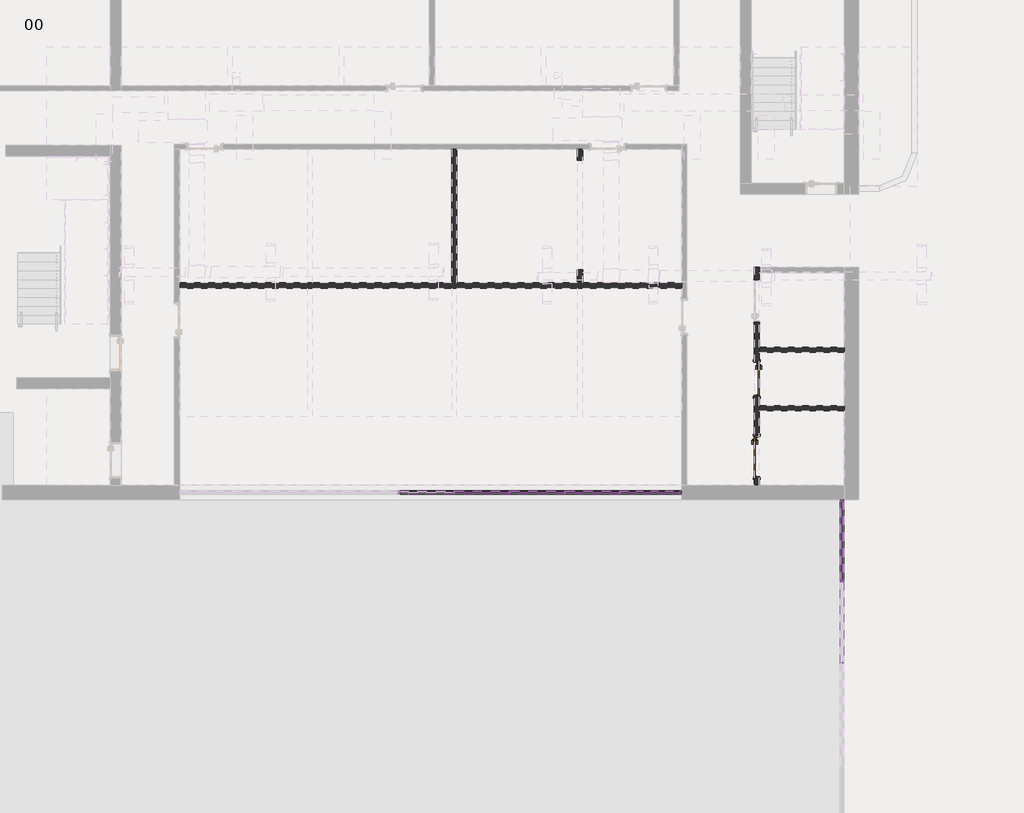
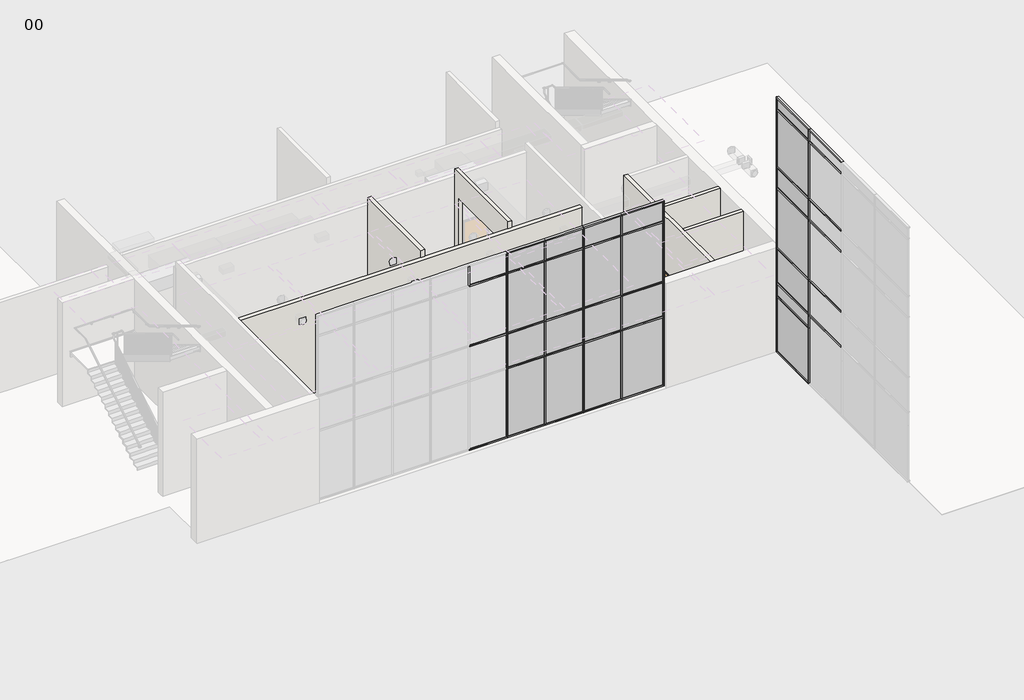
# One storey, part 3 of 12: 72 members, 23 plates, 6 walls, 2 doors.
"""IFC4 building model written with IfcOpenShell, lengths in millimetres."""

from ifc_helpers import new_model, si_unit, frame, origin, origin_with_axes, place, context, project, spatial, polyline, outline, extrude, faceted_brep, transform, mapped, element, save
from components import doors_intsgl_1_1010x2110mm_12a6edaf, doors_intsgl_1_1200x2110mm_07b1b6db, rectangular_mullion_curtainwallmullion_rectangular_generic_5675a122, rectangular_mullion_curtainwallmullion_rectangular_generic_397fb318, rectangular_mullion_curtainwallmullion_rectangular_generic_8ae0e668, rectangular_mullion_curtainwallmullion_rectangular_generic_15c16c91, rectangular_mullion_curtainwallmullion_rectangular_generic_08fbcc14, rectangular_mullion_curtainwallmullion_rectangular_generic_83e55909, rectangular_mullion_curtainwallmullion_rectangular_generic_1facc6e8, rectangular_mullion_curtainwallmullion_rectangular_generic_766165b3, rectangular_mullion_curtainwallmullion_rectangular_generic_b870b509, rectangular_mullion_curtainwallmullion_rectangular_generic_bb021e59, rectangular_mullion_curtainwallmullion_rectangular_generic_c971d07e, rectangular_mullion_curtainwallmullion_rectangular_generic_e6673756, rectangular_mullion_curtainwallmullion_rectangular_generic_63c9f2cf, rectangular_mullion_curtainwallmullion_rectangular_generic_d70bf6dd, rectangular_mullion_curtainwallmullion_rectangular_generic_654ac675, rectangular_mullion_curtainwallmullion_rectangular_generic_e7c47ca9, rectangular_mullion_curtainwallmullion_rectangular_generic_f3eef52e, rectangular_mullion_curtainwallmullion_rectangular_generic_c0600e94, rectangular_mullion_curtainwallmullion_rectangular_generic_3bdb59d8, rectangular_mullion_curtainwallmullion_rectangular_generic_0bcd7f07, rectangular_mullion_curtainwallmullion_rectangular_generic_c640f651, rectangular_mullion_curtainwallmullion_rectangular_generic_afb0b622, rectangular_mullion_curtainwallmullion_rectangular_generic_afae33c0, rectangular_mullion_curtainwallmullion_rectangular_generic_6b79dff2, rectangular_mullion_curtainwallmullion_rectangular_generic_b2d53351, rectangular_mullion_curtainwallmullion_rectangular_generic_d47b8a9d, system_panel_curtainpanel_glazed_2a823346, system_panel_curtainpanel_glazed_8c8521e7, system_panel_curtainpanel_glazed_c680861d, system_panel_curtainpanel_glazed_7c054268, system_panel_curtainpanel_glazed_8ab64ea0, system_panel_curtainpanel_glazed_beeb97b1, system_panel_curtainpanel_glazed_5b040634, system_panel_curtainpanel_glazed_68b8d244, system_panel_curtainpanel_solid_a1b8920c, system_panel_curtainpanel_solid_5b00d7df, system_panel_curtainpanel_solid_a154ba9f, system_panel_curtainpanel_solid_a51c248c, system_panel_curtainpanel_solid_c949ee80, system_panel_curtainpanel_solid_b8b1d7bc, system_panel_curtainpanel_solid_5b1e2b3f

model = new_model("IFC4")

# Units and contexts
model_context = context("Model", 3, world=origin())
ifc_project = project(units=[si_unit("LENGTHUNIT", "METRE", prefix="MILLI")], contexts=[model_context])

# Site, building, storey
site = spatial("IfcSite", under=ifc_project)
building = spatial("IfcBuilding", under=site)
storey = spatial("IfcBuildingStorey", under=building, Name="00", Elevation=0.0)

# Doors
placement = place(None, origin())
doors_intsgl_1_1010x2110mm_shape = doors_intsgl_1_1010x2110mm_12a6edaf(model_context)
element("IfcDoor", 1, ObjectType="Doors_IntSgl_1 : 1010x2110mm", at=placement, inside=storey, context=model_context, shape_type="MappedRepresentation", body=[
    mapped(doors_intsgl_1_1010x2110mm_shape, transform((443263.3206883, -393328.0026386, 0.0), x_axis=(0.0, -1.0, 0.0), y_axis=(1.0, 0.0, 0.0), z_axis=(0.0, 0.0, 1.0))),
])
doors_intsgl_1_1200x2110mm_shape = doors_intsgl_1_1200x2110mm_07b1b6db(model_context)
element("IfcDoor", 2, ObjectType="Doors_IntSgl_1 : 1200x2110mm", at=placement, inside=storey, context=model_context, shape_type="MappedRepresentation", body=[
    mapped(doors_intsgl_1_1200x2110mm_shape, transform((443263.3206883, -395528.0026386, 0.0), x_axis=(0.0, -1.0, 0.0), y_axis=(1.0, 0.0, 0.0), z_axis=(0.0, 0.0, 1.0))),
])

# Members
rectangular_mullion_curtainwallmullion_rectangular_generic_shape = rectangular_mullion_curtainwallmullion_rectangular_generic_5675a122(model_context)
element("IfcMember", 3, ObjectType="Rectangular Mullion : CurtainWallMullion_Rectangular_Generic", at=placement, inside=storey, context=model_context, shape_type="MappedRepresentation", body=[
    mapped(rectangular_mullion_curtainwallmullion_rectangular_generic_shape, transform((445668.3206883, -399032.2026388, 50.0), x_axis=(0.0, 1.0, 0.0), y_axis=(1.0, 0.0, 0.0), z_axis=(0.0, 0.0, -1.0))),
])
rectangular_mullion_curtainwallmullion_rectangular_generic_2_shape = rectangular_mullion_curtainwallmullion_rectangular_generic_397fb318(model_context)
element("IfcMember", 4, ObjectType="Rectangular Mullion : CurtainWallMullion_Rectangular_Generic", at=placement, inside=storey, context=model_context, shape_type="MappedRepresentation", body=[
    mapped(rectangular_mullion_curtainwallmullion_rectangular_generic_2_shape, transform((445668.3206883, -396730.0026386, 50.0), x_axis=(0.0, 1.0, 0.0), y_axis=(1.0, 0.0, 0.0), z_axis=(0.0, 0.0, -1.0))),
])
rectangular_mullion_curtainwallmullion_rectangular_generic_3_shape = rectangular_mullion_curtainwallmullion_rectangular_generic_8ae0e668(model_context)
element("IfcMember", 5, ObjectType="Rectangular Mullion : CurtainWallMullion_Rectangular_Generic", at=placement, inside=storey, context=model_context, shape_type="MappedRepresentation", body=[
    mapped(rectangular_mullion_curtainwallmullion_rectangular_generic_3_shape, transform((445668.3206883, -399032.2026388, 10486.7), x_axis=(0.0, 1.0, 0.0), y_axis=(1.0, 0.0, 0.0), z_axis=(0.0, 0.0, -1.0))),
])
rectangular_mullion_curtainwallmullion_rectangular_generic_4_shape = rectangular_mullion_curtainwallmullion_rectangular_generic_15c16c91(model_context)
element("IfcMember", 6, ObjectType="Rectangular Mullion : CurtainWallMullion_Rectangular_Generic", at=placement, inside=storey, context=model_context, shape_type="MappedRepresentation", body=[
    mapped(rectangular_mullion_curtainwallmullion_rectangular_generic_4_shape, transform((445668.3206883, -396730.0026386, 10486.7), x_axis=(0.0, 1.0, 0.0), y_axis=(1.0, 0.0, 0.0), z_axis=(0.0, 0.0, -1.0))),
])
rectangular_mullion_curtainwallmullion_rectangular_generic_5_shape = rectangular_mullion_curtainwallmullion_rectangular_generic_08fbcc14(model_context)
element("IfcMember", 7, ObjectType="Rectangular Mullion : CurtainWallMullion_Rectangular_Generic", at=placement, inside=storey, context=model_context, shape_type="MappedRepresentation", body=[
    mapped(rectangular_mullion_curtainwallmullion_rectangular_generic_5_shape, transform((445668.3206883, -399032.2026388, 8000.0), x_axis=(0.0, 1.0, 0.0), y_axis=(1.0, 0.0, 0.0), z_axis=(0.0, 0.0, -1.0))),
])
rectangular_mullion_curtainwallmullion_rectangular_generic_6_shape = rectangular_mullion_curtainwallmullion_rectangular_generic_83e55909(model_context)
element("IfcMember", 8, ObjectType="Rectangular Mullion : CurtainWallMullion_Rectangular_Generic", at=placement, inside=storey, context=model_context, shape_type="MappedRepresentation", body=[
    mapped(rectangular_mullion_curtainwallmullion_rectangular_generic_6_shape, transform((445668.3206883, -396730.0026386, 8000.0), x_axis=(0.0, 1.0, 0.0), y_axis=(1.0, 0.0, 0.0), z_axis=(0.0, 0.0, -1.0))),
])
rectangular_mullion_curtainwallmullion_rectangular_generic_7_shape = rectangular_mullion_curtainwallmullion_rectangular_generic_1facc6e8(model_context)
element("IfcMember", 9, ObjectType="Rectangular Mullion : CurtainWallMullion_Rectangular_Generic", at=placement, inside=storey, context=model_context, shape_type="MappedRepresentation", body=[
    mapped(rectangular_mullion_curtainwallmullion_rectangular_generic_7_shape, transform((445668.3206883, -396730.0026386, 11000.0), x_axis=(0.0, 0.0, 1.0), y_axis=(1.0, 0.0, 0.0), z_axis=(0.0, 1.0, 0.0))),
])
rectangular_mullion_curtainwallmullion_rectangular_generic_8_shape = rectangular_mullion_curtainwallmullion_rectangular_generic_766165b3(model_context)
element("IfcMember", 10, ObjectType="Rectangular Mullion : CurtainWallMullion_Rectangular_Generic", at=placement, inside=storey, context=model_context, shape_type="MappedRepresentation", body=[
    mapped(rectangular_mullion_curtainwallmullion_rectangular_generic_8_shape, transform((445668.3206883, -399032.2026388, 11000.0), x_axis=(0.0, 0.0, 1.0), y_axis=(1.0, 0.0, 0.0), z_axis=(0.0, 1.0, 0.0))),
])
rectangular_mullion_curtainwallmullion_rectangular_generic_9_shape = rectangular_mullion_curtainwallmullion_rectangular_generic_b870b509(model_context)
element("IfcMember", 11, ObjectType="Rectangular Mullion : CurtainWallMullion_Rectangular_Generic", at=placement, inside=storey, context=model_context, shape_type="MappedRepresentation", body=[
    mapped(rectangular_mullion_curtainwallmullion_rectangular_generic_9_shape, transform((445668.3206883, -399057.2026388, 4500.0), x_axis=(0.0, 0.0, 1.0), y_axis=(1.0, 0.0, 0.0), z_axis=(0.0, 1.0, 0.0))),
])
element("IfcMember", 12, ObjectType="Rectangular Mullion : CurtainWallMullion_Rectangular_Generic", at=placement, inside=storey, context=model_context, shape_type="MappedRepresentation", body=[
    mapped(rectangular_mullion_curtainwallmullion_rectangular_generic_9_shape, transform((445668.3206883, -399057.2026388, 7100.0), x_axis=(0.0, 0.0, 1.0), y_axis=(1.0, 0.0, 0.0), z_axis=(0.0, 1.0, 0.0))),
])
element("IfcMember", 13, ObjectType="Rectangular Mullion : CurtainWallMullion_Rectangular_Generic", at=placement, inside=storey, context=model_context, shape_type="MappedRepresentation", body=[
    mapped(rectangular_mullion_curtainwallmullion_rectangular_generic_9_shape, transform((445668.3206883, -399057.2026388, 10486.7), x_axis=(0.0, 0.0, 1.0), y_axis=(1.0, 0.0, 0.0), z_axis=(0.0, 1.0, 0.0))),
])
element("IfcMember", 14, ObjectType="Rectangular Mullion : CurtainWallMullion_Rectangular_Generic", at=placement, inside=storey, context=model_context, shape_type="MappedRepresentation", body=[
    mapped(rectangular_mullion_curtainwallmullion_rectangular_generic_9_shape, transform((445668.3206883, -399057.2026388, 3000.0), x_axis=(0.0, 0.0, 1.0), y_axis=(1.0, 0.0, 0.0), z_axis=(0.0, 1.0, 0.0))),
])
element("IfcMember", 15, ObjectType="Rectangular Mullion : CurtainWallMullion_Rectangular_Generic", at=placement, inside=storey, context=model_context, shape_type="MappedRepresentation", body=[
    mapped(rectangular_mullion_curtainwallmullion_rectangular_generic_9_shape, transform((445668.3206883, -399057.2026388, 8000.0), x_axis=(0.0, 0.0, 1.0), y_axis=(1.0, 0.0, 0.0), z_axis=(0.0, 1.0, 0.0))),
])
element("IfcMember", 16, ObjectType="Rectangular Mullion : CurtainWallMullion_Rectangular_Generic", at=placement, inside=storey, context=model_context, shape_type="MappedRepresentation", body=[
    mapped(rectangular_mullion_curtainwallmullion_rectangular_generic_7_shape, transform((445668.3206883, -399032.2026388, 0.0), x_axis=(0.0, 0.0, -1.0), y_axis=(1.0, 0.0, 0.0), z_axis=(0.0, -1.0, 0.0))),
])
rectangular_mullion_curtainwallmullion_rectangular_generic_10_shape = rectangular_mullion_curtainwallmullion_rectangular_generic_bb021e59(model_context)
element("IfcMember", 17, ObjectType="Rectangular Mullion : CurtainWallMullion_Rectangular_Generic", at=placement, inside=storey, context=model_context, shape_type="MappedRepresentation", body=[
    mapped(rectangular_mullion_curtainwallmullion_rectangular_generic_10_shape, transform((445668.3206883, -396780.0026386, 2425.0), x_axis=(0.0, 0.0, 1.0), y_axis=(1.0, 0.0, 0.0), z_axis=(0.0, 1.0, 0.0))),
])
element("IfcMember", 18, ObjectType="Rectangular Mullion : CurtainWallMullion_Rectangular_Generic", at=placement, inside=storey, context=model_context, shape_type="MappedRepresentation", body=[
    mapped(rectangular_mullion_curtainwallmullion_rectangular_generic_10_shape, transform((445668.3206883, -396780.0026386, 4500.0), x_axis=(0.0, 0.0, 1.0), y_axis=(1.0, 0.0, 0.0), z_axis=(0.0, 1.0, 0.0))),
])
element("IfcMember", 19, ObjectType="Rectangular Mullion : CurtainWallMullion_Rectangular_Generic", at=placement, inside=storey, context=model_context, shape_type="MappedRepresentation", body=[
    mapped(rectangular_mullion_curtainwallmullion_rectangular_generic_10_shape, transform((445668.3206883, -396780.0026386, 7100.0), x_axis=(0.0, 0.0, 1.0), y_axis=(1.0, 0.0, 0.0), z_axis=(0.0, 1.0, 0.0))),
])
element("IfcMember", 20, ObjectType="Rectangular Mullion : CurtainWallMullion_Rectangular_Generic", at=placement, inside=storey, context=model_context, shape_type="MappedRepresentation", body=[
    mapped(rectangular_mullion_curtainwallmullion_rectangular_generic_10_shape, transform((445668.3206883, -396780.0026386, 10486.7), x_axis=(0.0, 0.0, 1.0), y_axis=(1.0, 0.0, 0.0), z_axis=(0.0, 1.0, 0.0))),
])
element("IfcMember", 21, ObjectType="Rectangular Mullion : CurtainWallMullion_Rectangular_Generic", at=placement, inside=storey, context=model_context, shape_type="MappedRepresentation", body=[
    mapped(rectangular_mullion_curtainwallmullion_rectangular_generic_10_shape, transform((445668.3206883, -396780.0026386, 3000.0), x_axis=(0.0, 0.0, 1.0), y_axis=(1.0, 0.0, 0.0), z_axis=(0.0, 1.0, 0.0))),
])
element("IfcMember", 22, ObjectType="Rectangular Mullion : CurtainWallMullion_Rectangular_Generic", at=placement, inside=storey, context=model_context, shape_type="MappedRepresentation", body=[
    mapped(rectangular_mullion_curtainwallmullion_rectangular_generic_10_shape, transform((445668.3206883, -396780.0026386, 8000.0), x_axis=(0.0, 0.0, 1.0), y_axis=(1.0, 0.0, 0.0), z_axis=(0.0, 1.0, 0.0))),
])
rectangular_mullion_curtainwallmullion_rectangular_generic_11_shape = rectangular_mullion_curtainwallmullion_rectangular_generic_c971d07e(model_context)
element("IfcMember", 23, ObjectType="Rectangular Mullion : CurtainWallMullion_Rectangular_Generic", at=placement, inside=storey, context=model_context, shape_type="MappedRepresentation", body=[
    mapped(rectangular_mullion_curtainwallmullion_rectangular_generic_11_shape, transform((437850.0984659, -396529.0026386, 8000.0), x_axis=(0.0, 0.0, 1.0), y_axis=(0.0, 1.0, 0.0), z_axis=(-1.0, 0.0, 0.0))),
])
element("IfcMember", 24, ObjectType="Rectangular Mullion : CurtainWallMullion_Rectangular_Generic", at=placement, inside=storey, context=model_context, shape_type="MappedRepresentation", body=[
    mapped(rectangular_mullion_curtainwallmullion_rectangular_generic_11_shape, transform((436288.9873549, -396529.0026386, 8000.0), x_axis=(0.0, 0.0, 1.0), y_axis=(0.0, 1.0, 0.0), z_axis=(-1.0, 0.0, 0.0))),
])
element("IfcMember", 25, ObjectType="Rectangular Mullion : CurtainWallMullion_Rectangular_Generic", at=placement, inside=storey, context=model_context, shape_type="MappedRepresentation", body=[
    mapped(rectangular_mullion_curtainwallmullion_rectangular_generic_11_shape, transform((434727.8762438, -396529.0026386, 8000.0), x_axis=(0.0, 0.0, 1.0), y_axis=(0.0, 1.0, 0.0), z_axis=(-1.0, 0.0, 0.0))),
])
element("IfcMember", 26, ObjectType="Rectangular Mullion : CurtainWallMullion_Rectangular_Generic", at=placement, inside=storey, context=model_context, shape_type="MappedRepresentation", body=[
    mapped(rectangular_mullion_curtainwallmullion_rectangular_generic_11_shape, transform((439411.209577, -396529.0026386, 0.0), x_axis=(0.0, 0.0, -1.0), y_axis=(0.0, 1.0, 0.0), z_axis=(1.0, 0.0, 0.0))),
])
element("IfcMember", 27, ObjectType="Rectangular Mullion : CurtainWallMullion_Rectangular_Generic", at=placement, inside=storey, context=model_context, shape_type="MappedRepresentation", body=[
    mapped(rectangular_mullion_curtainwallmullion_rectangular_generic_11_shape, transform((437850.0984659, -396529.0026386, 0.0), x_axis=(0.0, 0.0, -1.0), y_axis=(0.0, 1.0, 0.0), z_axis=(1.0, 0.0, 0.0))),
])
element("IfcMember", 28, ObjectType="Rectangular Mullion : CurtainWallMullion_Rectangular_Generic", at=placement, inside=storey, context=model_context, shape_type="MappedRepresentation", body=[
    mapped(rectangular_mullion_curtainwallmullion_rectangular_generic_11_shape, transform((436288.9873549, -396529.0026386, 0.0), x_axis=(0.0, 0.0, -1.0), y_axis=(0.0, 1.0, 0.0), z_axis=(1.0, 0.0, 0.0))),
])
element("IfcMember", 29, ObjectType="Rectangular Mullion : CurtainWallMullion_Rectangular_Generic", at=placement, inside=storey, context=model_context, shape_type="MappedRepresentation", body=[
    mapped(rectangular_mullion_curtainwallmullion_rectangular_generic_11_shape, transform((434727.8762438, -396529.0026386, 0.0), x_axis=(0.0, 0.0, -1.0), y_axis=(0.0, 1.0, 0.0), z_axis=(1.0, 0.0, 0.0))),
])
rectangular_mullion_curtainwallmullion_rectangular_generic_12_shape = rectangular_mullion_curtainwallmullion_rectangular_generic_e6673756(model_context)
element("IfcMember", 30, ObjectType="Rectangular Mullion : CurtainWallMullion_Rectangular_Generic", at=placement, inside=storey, context=model_context, shape_type="MappedRepresentation", body=[
    mapped(rectangular_mullion_curtainwallmullion_rectangular_generic_12_shape, transform((437875.0984659, -396529.0026386, 3000.0), x_axis=(0.0, 0.0, 1.0), y_axis=(0.0, 1.0, 0.0), z_axis=(-1.0, 0.0, 0.0))),
])
element("IfcMember", 31, ObjectType="Rectangular Mullion : CurtainWallMullion_Rectangular_Generic", at=placement, inside=storey, context=model_context, shape_type="MappedRepresentation", body=[
    mapped(rectangular_mullion_curtainwallmullion_rectangular_generic_12_shape, transform((436313.9873549, -396529.0026386, 3000.0), x_axis=(0.0, 0.0, 1.0), y_axis=(0.0, 1.0, 0.0), z_axis=(-1.0, 0.0, 0.0))),
])
element("IfcMember", 32, ObjectType="Rectangular Mullion : CurtainWallMullion_Rectangular_Generic", at=placement, inside=storey, context=model_context, shape_type="MappedRepresentation", body=[
    mapped(rectangular_mullion_curtainwallmullion_rectangular_generic_12_shape, transform((434752.8762438, -396529.0026386, 3000.0), x_axis=(0.0, 0.0, 1.0), y_axis=(0.0, 1.0, 0.0), z_axis=(-1.0, 0.0, 0.0))),
])
element("IfcMember", 33, ObjectType="Rectangular Mullion : CurtainWallMullion_Rectangular_Generic", at=placement, inside=storey, context=model_context, shape_type="MappedRepresentation", body=[
    mapped(rectangular_mullion_curtainwallmullion_rectangular_generic_12_shape, transform((437875.0984659, -396529.0026386, 4500.0), x_axis=(0.0, 0.0, 1.0), y_axis=(0.0, 1.0, 0.0), z_axis=(-1.0, 0.0, 0.0))),
])
element("IfcMember", 34, ObjectType="Rectangular Mullion : CurtainWallMullion_Rectangular_Generic", at=placement, inside=storey, context=model_context, shape_type="MappedRepresentation", body=[
    mapped(rectangular_mullion_curtainwallmullion_rectangular_generic_12_shape, transform((436313.9873549, -396529.0026386, 4500.0), x_axis=(0.0, 0.0, 1.0), y_axis=(0.0, 1.0, 0.0), z_axis=(-1.0, 0.0, 0.0))),
])
element("IfcMember", 35, ObjectType="Rectangular Mullion : CurtainWallMullion_Rectangular_Generic", at=placement, inside=storey, context=model_context, shape_type="MappedRepresentation", body=[
    mapped(rectangular_mullion_curtainwallmullion_rectangular_generic_12_shape, transform((434752.8762438, -396529.0026386, 4500.0), x_axis=(0.0, 0.0, 1.0), y_axis=(0.0, 1.0, 0.0), z_axis=(-1.0, 0.0, 0.0))),
])
element("IfcMember", 36, ObjectType="Rectangular Mullion : CurtainWallMullion_Rectangular_Generic", at=placement, inside=storey, context=model_context, shape_type="MappedRepresentation", body=[
    mapped(rectangular_mullion_curtainwallmullion_rectangular_generic_12_shape, transform((433191.7651328, -396529.0026386, 4500.0), x_axis=(0.0, 0.0, 1.0), y_axis=(0.0, 1.0, 0.0), z_axis=(-1.0, 0.0, 0.0))),
])
element("IfcMember", 37, ObjectType="Rectangular Mullion : CurtainWallMullion_Rectangular_Generic", at=placement, inside=storey, context=model_context, shape_type="MappedRepresentation", body=[
    mapped(rectangular_mullion_curtainwallmullion_rectangular_generic_12_shape, transform((437875.0984659, -396529.0026386, 7100.0), x_axis=(0.0, 0.0, 1.0), y_axis=(0.0, 1.0, 0.0), z_axis=(-1.0, 0.0, 0.0))),
])
element("IfcMember", 38, ObjectType="Rectangular Mullion : CurtainWallMullion_Rectangular_Generic", at=placement, inside=storey, context=model_context, shape_type="MappedRepresentation", body=[
    mapped(rectangular_mullion_curtainwallmullion_rectangular_generic_12_shape, transform((436313.9873549, -396529.0026386, 7100.0), x_axis=(0.0, 0.0, 1.0), y_axis=(0.0, 1.0, 0.0), z_axis=(-1.0, 0.0, 0.0))),
])
element("IfcMember", 39, ObjectType="Rectangular Mullion : CurtainWallMullion_Rectangular_Generic", at=placement, inside=storey, context=model_context, shape_type="MappedRepresentation", body=[
    mapped(rectangular_mullion_curtainwallmullion_rectangular_generic_12_shape, transform((434752.8762438, -396529.0026386, 7100.0), x_axis=(0.0, 0.0, 1.0), y_axis=(0.0, 1.0, 0.0), z_axis=(-1.0, 0.0, 0.0))),
])
element("IfcMember", 40, ObjectType="Rectangular Mullion : CurtainWallMullion_Rectangular_Generic", at=placement, inside=storey, context=model_context, shape_type="MappedRepresentation", body=[
    mapped(rectangular_mullion_curtainwallmullion_rectangular_generic_12_shape, transform((433191.7651328, -396529.0026386, 7100.0), x_axis=(0.0, 0.0, 1.0), y_axis=(0.0, 1.0, 0.0), z_axis=(-1.0, 0.0, 0.0))),
])
rectangular_mullion_curtainwallmullion_rectangular_generic_13_shape = rectangular_mullion_curtainwallmullion_rectangular_generic_63c9f2cf(model_context)
element("IfcMember", 41, ObjectType="Rectangular Mullion : CurtainWallMullion_Rectangular_Generic", at=placement, inside=storey, context=model_context, shape_type="MappedRepresentation", body=[
    mapped(rectangular_mullion_curtainwallmullion_rectangular_generic_13_shape, transform((439411.209577, -396529.0026386, 7100.0), x_axis=(-1.0, 0.0, 0.0), y_axis=(0.0, 1.0, 0.0), z_axis=(0.0, 0.0, -1.0))),
])
element("IfcMember", 42, ObjectType="Rectangular Mullion : CurtainWallMullion_Rectangular_Generic", at=placement, inside=storey, context=model_context, shape_type="MappedRepresentation", body=[
    mapped(rectangular_mullion_curtainwallmullion_rectangular_generic_13_shape, transform((437850.0984659, -396529.0026386, 7100.0), x_axis=(-1.0, 0.0, 0.0), y_axis=(0.0, 1.0, 0.0), z_axis=(0.0, 0.0, -1.0))),
])
element("IfcMember", 43, ObjectType="Rectangular Mullion : CurtainWallMullion_Rectangular_Generic", at=placement, inside=storey, context=model_context, shape_type="MappedRepresentation", body=[
    mapped(rectangular_mullion_curtainwallmullion_rectangular_generic_13_shape, transform((436288.9873549, -396529.0026386, 7100.0), x_axis=(-1.0, 0.0, 0.0), y_axis=(0.0, 1.0, 0.0), z_axis=(0.0, 0.0, -1.0))),
])
element("IfcMember", 44, ObjectType="Rectangular Mullion : CurtainWallMullion_Rectangular_Generic", at=placement, inside=storey, context=model_context, shape_type="MappedRepresentation", body=[
    mapped(rectangular_mullion_curtainwallmullion_rectangular_generic_13_shape, transform((434727.8762438, -396529.0026386, 7100.0), x_axis=(-1.0, 0.0, 0.0), y_axis=(0.0, 1.0, 0.0), z_axis=(0.0, 0.0, -1.0))),
])
element("IfcMember", 45, ObjectType="Rectangular Mullion : CurtainWallMullion_Rectangular_Generic", at=placement, inside=storey, context=model_context, shape_type="MappedRepresentation", body=[
    mapped(rectangular_mullion_curtainwallmullion_rectangular_generic_13_shape, transform((433166.7651328, -396529.0026386, 7100.0), x_axis=(-1.0, 0.0, 0.0), y_axis=(0.0, 1.0, 0.0), z_axis=(0.0, 0.0, -1.0))),
])
rectangular_mullion_curtainwallmullion_rectangular_generic_14_shape = rectangular_mullion_curtainwallmullion_rectangular_generic_d70bf6dd(model_context)
element("IfcMember", 46, ObjectType="Rectangular Mullion : CurtainWallMullion_Rectangular_Generic", at=placement, inside=storey, context=model_context, shape_type="MappedRepresentation", body=[
    mapped(rectangular_mullion_curtainwallmullion_rectangular_generic_14_shape, transform((441142.3206883, -396529.0026386, 7950.0), x_axis=(1.0, 0.0, 0.0), y_axis=(0.0, 1.0, 0.0), z_axis=(0.0, 0.0, 1.0))),
])
rectangular_mullion_curtainwallmullion_rectangular_generic_15_shape = rectangular_mullion_curtainwallmullion_rectangular_generic_654ac675(model_context)
element("IfcMember", 47, ObjectType="Rectangular Mullion : CurtainWallMullion_Rectangular_Generic", at=placement, inside=storey, context=model_context, shape_type="MappedRepresentation", body=[
    mapped(rectangular_mullion_curtainwallmullion_rectangular_generic_15_shape, transform((445668.3206883, -399032.2026388, 4500.0), x_axis=(0.0, 1.0, 0.0), y_axis=(1.0, 0.0, 0.0), z_axis=(0.0, 0.0, -1.0))),
])
element("IfcMember", 48, ObjectType="Rectangular Mullion : CurtainWallMullion_Rectangular_Generic", at=placement, inside=storey, context=model_context, shape_type="MappedRepresentation", body=[
    mapped(rectangular_mullion_curtainwallmullion_rectangular_generic_15_shape, transform((439411.209577, -396529.0026386, 4500.0), x_axis=(-1.0, 0.0, 0.0), y_axis=(0.0, 1.0, 0.0), z_axis=(0.0, 0.0, -1.0))),
])
element("IfcMember", 49, ObjectType="Rectangular Mullion : CurtainWallMullion_Rectangular_Generic", at=placement, inside=storey, context=model_context, shape_type="MappedRepresentation", body=[
    mapped(rectangular_mullion_curtainwallmullion_rectangular_generic_15_shape, transform((437850.0984659, -396529.0026386, 4500.0), x_axis=(-1.0, 0.0, 0.0), y_axis=(0.0, 1.0, 0.0), z_axis=(0.0, 0.0, -1.0))),
])
element("IfcMember", 50, ObjectType="Rectangular Mullion : CurtainWallMullion_Rectangular_Generic", at=placement, inside=storey, context=model_context, shape_type="MappedRepresentation", body=[
    mapped(rectangular_mullion_curtainwallmullion_rectangular_generic_15_shape, transform((436288.9873549, -396529.0026386, 4500.0), x_axis=(-1.0, 0.0, 0.0), y_axis=(0.0, 1.0, 0.0), z_axis=(0.0, 0.0, -1.0))),
])
element("IfcMember", 51, ObjectType="Rectangular Mullion : CurtainWallMullion_Rectangular_Generic", at=placement, inside=storey, context=model_context, shape_type="MappedRepresentation", body=[
    mapped(rectangular_mullion_curtainwallmullion_rectangular_generic_15_shape, transform((434727.8762438, -396529.0026386, 4500.0), x_axis=(-1.0, 0.0, 0.0), y_axis=(0.0, 1.0, 0.0), z_axis=(0.0, 0.0, -1.0))),
])
rectangular_mullion_curtainwallmullion_rectangular_generic_16_shape = rectangular_mullion_curtainwallmullion_rectangular_generic_e7c47ca9(model_context)
element("IfcMember", 52, ObjectType="Rectangular Mullion : CurtainWallMullion_Rectangular_Generic", at=placement, inside=storey, context=model_context, shape_type="MappedRepresentation", body=[
    mapped(rectangular_mullion_curtainwallmullion_rectangular_generic_16_shape, transform((445668.3206883, -396730.0026386, 4500.0), x_axis=(0.0, 1.0, 0.0), y_axis=(1.0, 0.0, 0.0), z_axis=(0.0, 0.0, -1.0))),
])
element("IfcMember", 53, ObjectType="Rectangular Mullion : CurtainWallMullion_Rectangular_Generic", at=placement, inside=storey, context=model_context, shape_type="MappedRepresentation", body=[
    mapped(rectangular_mullion_curtainwallmullion_rectangular_generic_16_shape, transform((441142.3206883, -396529.0026386, 7100.0), x_axis=(1.0, 0.0, 0.0), y_axis=(0.0, 1.0, 0.0), z_axis=(0.0, 0.0, 1.0))),
])
rectangular_mullion_curtainwallmullion_rectangular_generic_17_shape = rectangular_mullion_curtainwallmullion_rectangular_generic_f3eef52e(model_context)
element("IfcMember", 54, ObjectType="Rectangular Mullion : CurtainWallMullion_Rectangular_Generic", at=placement, inside=storey, context=model_context, shape_type="MappedRepresentation", body=[
    mapped(rectangular_mullion_curtainwallmullion_rectangular_generic_17_shape, transform((439411.209577, -396529.0026386, 50.0), x_axis=(-1.0, 0.0, 0.0), y_axis=(0.0, 1.0, 0.0), z_axis=(0.0, 0.0, -1.0))),
])
element("IfcMember", 55, ObjectType="Rectangular Mullion : CurtainWallMullion_Rectangular_Generic", at=placement, inside=storey, context=model_context, shape_type="MappedRepresentation", body=[
    mapped(rectangular_mullion_curtainwallmullion_rectangular_generic_17_shape, transform((437850.0984659, -396529.0026386, 50.0), x_axis=(-1.0, 0.0, 0.0), y_axis=(0.0, 1.0, 0.0), z_axis=(0.0, 0.0, -1.0))),
])
element("IfcMember", 56, ObjectType="Rectangular Mullion : CurtainWallMullion_Rectangular_Generic", at=placement, inside=storey, context=model_context, shape_type="MappedRepresentation", body=[
    mapped(rectangular_mullion_curtainwallmullion_rectangular_generic_17_shape, transform((436288.9873549, -396529.0026386, 50.0), x_axis=(-1.0, 0.0, 0.0), y_axis=(0.0, 1.0, 0.0), z_axis=(0.0, 0.0, -1.0))),
])
element("IfcMember", 57, ObjectType="Rectangular Mullion : CurtainWallMullion_Rectangular_Generic", at=placement, inside=storey, context=model_context, shape_type="MappedRepresentation", body=[
    mapped(rectangular_mullion_curtainwallmullion_rectangular_generic_17_shape, transform((434727.8762438, -396529.0026386, 50.0), x_axis=(-1.0, 0.0, 0.0), y_axis=(0.0, 1.0, 0.0), z_axis=(0.0, 0.0, -1.0))),
])
rectangular_mullion_curtainwallmullion_rectangular_generic_18_shape = rectangular_mullion_curtainwallmullion_rectangular_generic_c0600e94(model_context)
element("IfcMember", 58, ObjectType="Rectangular Mullion : CurtainWallMullion_Rectangular_Generic", at=placement, inside=storey, context=model_context, shape_type="MappedRepresentation", body=[
    mapped(rectangular_mullion_curtainwallmullion_rectangular_generic_18_shape, transform((445668.3206883, -399032.2026388, 3000.0), x_axis=(0.0, 1.0, 0.0), y_axis=(1.0, 0.0, 0.0), z_axis=(0.0, 0.0, -1.0))),
])
element("IfcMember", 59, ObjectType="Rectangular Mullion : CurtainWallMullion_Rectangular_Generic", at=placement, inside=storey, context=model_context, shape_type="MappedRepresentation", body=[
    mapped(rectangular_mullion_curtainwallmullion_rectangular_generic_18_shape, transform((439411.209577, -396529.0026386, 3000.0), x_axis=(-1.0, 0.0, 0.0), y_axis=(0.0, 1.0, 0.0), z_axis=(0.0, 0.0, -1.0))),
])
element("IfcMember", 60, ObjectType="Rectangular Mullion : CurtainWallMullion_Rectangular_Generic", at=placement, inside=storey, context=model_context, shape_type="MappedRepresentation", body=[
    mapped(rectangular_mullion_curtainwallmullion_rectangular_generic_18_shape, transform((437850.0984659, -396529.0026386, 3000.0), x_axis=(-1.0, 0.0, 0.0), y_axis=(0.0, 1.0, 0.0), z_axis=(0.0, 0.0, -1.0))),
])
element("IfcMember", 61, ObjectType="Rectangular Mullion : CurtainWallMullion_Rectangular_Generic", at=placement, inside=storey, context=model_context, shape_type="MappedRepresentation", body=[
    mapped(rectangular_mullion_curtainwallmullion_rectangular_generic_18_shape, transform((436288.9873549, -396529.0026386, 3000.0), x_axis=(-1.0, 0.0, 0.0), y_axis=(0.0, 1.0, 0.0), z_axis=(0.0, 0.0, -1.0))),
])
element("IfcMember", 62, ObjectType="Rectangular Mullion : CurtainWallMullion_Rectangular_Generic", at=placement, inside=storey, context=model_context, shape_type="MappedRepresentation", body=[
    mapped(rectangular_mullion_curtainwallmullion_rectangular_generic_18_shape, transform((434727.8762438, -396529.0026386, 3000.0), x_axis=(-1.0, 0.0, 0.0), y_axis=(0.0, 1.0, 0.0), z_axis=(0.0, 0.0, -1.0))),
])
rectangular_mullion_curtainwallmullion_rectangular_generic_19_shape = rectangular_mullion_curtainwallmullion_rectangular_generic_3bdb59d8(model_context)
element("IfcMember", 63, ObjectType="Rectangular Mullion : CurtainWallMullion_Rectangular_Generic", at=placement, inside=storey, context=model_context, shape_type="MappedRepresentation", body=[
    mapped(rectangular_mullion_curtainwallmullion_rectangular_generic_19_shape, transform((445668.3206883, -396730.0026386, 3000.0), x_axis=(0.0, 1.0, 0.0), y_axis=(1.0, 0.0, 0.0), z_axis=(0.0, 0.0, -1.0))),
])
rectangular_mullion_curtainwallmullion_rectangular_generic_20_shape = rectangular_mullion_curtainwallmullion_rectangular_generic_0bcd7f07(model_context)
element("IfcMember", 64, ObjectType="Rectangular Mullion : CurtainWallMullion_Rectangular_Generic", at=placement, inside=storey, context=model_context, shape_type="MappedRepresentation", body=[
    mapped(rectangular_mullion_curtainwallmullion_rectangular_generic_20_shape, transform((441142.3206883, -396529.0026386, 3000.0), x_axis=(1.0, 0.0, 0.0), y_axis=(0.0, 1.0, 0.0), z_axis=(0.0, 0.0, 1.0))),
])
element("IfcMember", 65, ObjectType="Rectangular Mullion : CurtainWallMullion_Rectangular_Generic", at=placement, inside=storey, context=model_context, shape_type="MappedRepresentation", body=[
    mapped(rectangular_mullion_curtainwallmullion_rectangular_generic_19_shape, transform((441142.3206883, -396529.0026386, 4500.0), x_axis=(1.0, 0.0, 0.0), y_axis=(0.0, 1.0, 0.0), z_axis=(0.0, 0.0, 1.0))),
])
rectangular_mullion_curtainwallmullion_rectangular_generic_21_shape = rectangular_mullion_curtainwallmullion_rectangular_generic_c640f651(model_context)
element("IfcMember", 66, ObjectType="Rectangular Mullion : CurtainWallMullion_Rectangular_Generic", at=placement, inside=storey, context=model_context, shape_type="MappedRepresentation", body=[
    mapped(rectangular_mullion_curtainwallmullion_rectangular_generic_21_shape, transform((445668.3206883, -399032.2026388, 7100.0), x_axis=(0.0, 1.0, 0.0), y_axis=(1.0, 0.0, 0.0), z_axis=(0.0, 0.0, -1.0))),
])
rectangular_mullion_curtainwallmullion_rectangular_generic_22_shape = rectangular_mullion_curtainwallmullion_rectangular_generic_afb0b622(model_context)
element("IfcMember", 67, ObjectType="Rectangular Mullion : CurtainWallMullion_Rectangular_Generic", at=placement, inside=storey, context=model_context, shape_type="MappedRepresentation", body=[
    mapped(rectangular_mullion_curtainwallmullion_rectangular_generic_22_shape, transform((445668.3206883, -396730.0026386, 7100.0), x_axis=(0.0, 1.0, 0.0), y_axis=(1.0, 0.0, 0.0), z_axis=(0.0, 0.0, -1.0))),
])
rectangular_mullion_curtainwallmullion_rectangular_generic_23_shape = rectangular_mullion_curtainwallmullion_rectangular_generic_afae33c0(model_context)
element("IfcMember", 68, ObjectType="Rectangular Mullion : CurtainWallMullion_Rectangular_Generic", at=placement, inside=storey, context=model_context, shape_type="MappedRepresentation", body=[
    mapped(rectangular_mullion_curtainwallmullion_rectangular_generic_23_shape, transform((439411.209577, -396529.0026386, 8000.0), x_axis=(0.0, 0.0, 1.0), y_axis=(0.0, 1.0, 0.0), z_axis=(-1.0, 0.0, 0.0))),
])
element("IfcMember", 69, ObjectType="Rectangular Mullion : CurtainWallMullion_Rectangular_Generic", at=placement, inside=storey, context=model_context, shape_type="MappedRepresentation", body=[
    mapped(rectangular_mullion_curtainwallmullion_rectangular_generic_23_shape, transform((441142.3206883, -396529.0026386, 0.0), x_axis=(0.0, 0.0, -1.0), y_axis=(0.0, 1.0, 0.0), z_axis=(1.0, 0.0, 0.0))),
])
rectangular_mullion_curtainwallmullion_rectangular_generic_24_shape = rectangular_mullion_curtainwallmullion_rectangular_generic_6b79dff2(model_context)
element("IfcMember", 70, ObjectType="Rectangular Mullion : CurtainWallMullion_Rectangular_Generic", at=placement, inside=storey, context=model_context, shape_type="MappedRepresentation", body=[
    mapped(rectangular_mullion_curtainwallmullion_rectangular_generic_24_shape, transform((439436.209577, -396529.0026386, 3000.0), x_axis=(0.0, 0.0, 1.0), y_axis=(0.0, 1.0, 0.0), z_axis=(-1.0, 0.0, 0.0))),
])
element("IfcMember", 71, ObjectType="Rectangular Mullion : CurtainWallMullion_Rectangular_Generic", at=placement, inside=storey, context=model_context, shape_type="MappedRepresentation", body=[
    mapped(rectangular_mullion_curtainwallmullion_rectangular_generic_24_shape, transform((439436.209577, -396529.0026386, 4500.0), x_axis=(0.0, 0.0, 1.0), y_axis=(0.0, 1.0, 0.0), z_axis=(-1.0, 0.0, 0.0))),
])
element("IfcMember", 72, ObjectType="Rectangular Mullion : CurtainWallMullion_Rectangular_Generic", at=placement, inside=storey, context=model_context, shape_type="MappedRepresentation", body=[
    mapped(rectangular_mullion_curtainwallmullion_rectangular_generic_24_shape, transform((439436.209577, -396529.0026386, 7100.0), x_axis=(0.0, 0.0, 1.0), y_axis=(0.0, 1.0, 0.0), z_axis=(-1.0, 0.0, 0.0))),
])
rectangular_mullion_curtainwallmullion_rectangular_generic_25_shape = rectangular_mullion_curtainwallmullion_rectangular_generic_b2d53351(model_context)
element("IfcMember", 73, ObjectType="Rectangular Mullion : CurtainWallMullion_Rectangular_Generic", at=placement, inside=storey, context=model_context, shape_type="MappedRepresentation", body=[
    mapped(rectangular_mullion_curtainwallmullion_rectangular_generic_25_shape, transform((445668.3206883, -399032.2026388, 2425.0), x_axis=(0.0, 1.0, 0.0), y_axis=(1.0, 0.0, 0.0), z_axis=(0.0, 0.0, -1.0))),
])
rectangular_mullion_curtainwallmullion_rectangular_generic_26_shape = rectangular_mullion_curtainwallmullion_rectangular_generic_d47b8a9d(model_context)
element("IfcMember", 74, ObjectType="Rectangular Mullion : CurtainWallMullion_Rectangular_Generic", at=placement, inside=storey, context=model_context, shape_type="MappedRepresentation", body=[
    mapped(rectangular_mullion_curtainwallmullion_rectangular_generic_26_shape, transform((445668.3206883, -396730.0026386, 2425.0), x_axis=(0.0, 1.0, 0.0), y_axis=(1.0, 0.0, 0.0), z_axis=(0.0, 0.0, -1.0))),
])

# Plates
system_panel_curtainpanel_glazed_shape = system_panel_curtainpanel_glazed_2a823346(model_context)
element("IfcPlate", 75, ObjectType="System Panel : CurtainPanel_Glazed", at=placement, inside=storey, context=model_context, shape_type="MappedRepresentation", body=[
    mapped(system_panel_curtainpanel_glazed_shape, transform((445668.3206883, -397893.6026387, 50.0), x_axis=(0.0, 1.0, 0.0), y_axis=(-1.0, 0.0, 0.0), z_axis=(0.0, 0.0, 1.0))),
])
system_panel_curtainpanel_glazed_2_shape = system_panel_curtainpanel_glazed_8c8521e7(model_context)
element("IfcPlate", 76, ObjectType="System Panel : CurtainPanel_Glazed", at=placement, inside=storey, context=model_context, shape_type="MappedRepresentation", body=[
    mapped(system_panel_curtainpanel_glazed_2_shape, transform((445668.3206883, -397893.6026387, 8025.0), x_axis=(0.0, 1.0, 0.0), y_axis=(-1.0, 0.0, 0.0), z_axis=(0.0, 0.0, 1.0))),
])
system_panel_curtainpanel_glazed_3_shape = system_panel_curtainpanel_glazed_c680861d(model_context)
element("IfcPlate", 77, ObjectType="System Panel : CurtainPanel_Glazed", at=placement, inside=storey, context=model_context, shape_type="MappedRepresentation", body=[
    mapped(system_panel_curtainpanel_glazed_3_shape, transform((438630.6540215, -396529.0026386, 4525.0), x_axis=(-1.0, 0.0, 0.0), y_axis=(0.0, -1.0, 0.0), z_axis=(0.0, 0.0, 1.0))),
])
element("IfcPlate", 78, ObjectType="System Panel : CurtainPanel_Glazed", at=placement, inside=storey, context=model_context, shape_type="MappedRepresentation", body=[
    mapped(system_panel_curtainpanel_glazed_3_shape, transform((437069.5429104, -396529.0026386, 4525.0), x_axis=(-1.0, 0.0, 0.0), y_axis=(0.0, -1.0, 0.0), z_axis=(0.0, 0.0, 1.0))),
])
element("IfcPlate", 79, ObjectType="System Panel : CurtainPanel_Glazed", at=placement, inside=storey, context=model_context, shape_type="MappedRepresentation", body=[
    mapped(system_panel_curtainpanel_glazed_3_shape, transform((435508.4317994, -396529.0026386, 4525.0), x_axis=(-1.0, 0.0, 0.0), y_axis=(0.0, -1.0, 0.0), z_axis=(0.0, 0.0, 1.0))),
])
system_panel_curtainpanel_glazed_4_shape = system_panel_curtainpanel_glazed_7c054268(model_context)
element("IfcPlate", 80, ObjectType="System Panel : CurtainPanel_Glazed", at=placement, inside=storey, context=model_context, shape_type="MappedRepresentation", body=[
    mapped(system_panel_curtainpanel_glazed_4_shape, transform((438630.6540215, -396529.0026386, 50.0), x_axis=(-1.0, 0.0, 0.0), y_axis=(0.0, -1.0, 0.0), z_axis=(0.0, 0.0, 1.0))),
])
element("IfcPlate", 81, ObjectType="System Panel : CurtainPanel_Glazed", at=placement, inside=storey, context=model_context, shape_type="MappedRepresentation", body=[
    mapped(system_panel_curtainpanel_glazed_4_shape, transform((437069.5429104, -396529.0026386, 50.0), x_axis=(-1.0, 0.0, 0.0), y_axis=(0.0, -1.0, 0.0), z_axis=(0.0, 0.0, 1.0))),
])
element("IfcPlate", 82, ObjectType="System Panel : CurtainPanel_Glazed", at=placement, inside=storey, context=model_context, shape_type="MappedRepresentation", body=[
    mapped(system_panel_curtainpanel_glazed_4_shape, transform((435508.4317994, -396529.0026386, 50.0), x_axis=(-1.0, 0.0, 0.0), y_axis=(0.0, -1.0, 0.0), z_axis=(0.0, 0.0, 1.0))),
])
system_panel_curtainpanel_glazed_5_shape = system_panel_curtainpanel_glazed_8ab64ea0(model_context)
element("IfcPlate", 83, ObjectType="System Panel : CurtainPanel_Glazed", at=placement, inside=storey, context=model_context, shape_type="MappedRepresentation", body=[
    mapped(system_panel_curtainpanel_glazed_5_shape, transform((440264.2651327, -396529.0026386, 50.0), x_axis=(-1.0, 0.0, 0.0), y_axis=(0.0, -1.0, 0.0), z_axis=(0.0, 0.0, 1.0))),
])
system_panel_curtainpanel_glazed_6_shape = system_panel_curtainpanel_glazed_beeb97b1(model_context)
element("IfcPlate", 84, ObjectType="System Panel : CurtainPanel_Glazed", at=placement, inside=storey, context=model_context, shape_type="MappedRepresentation", body=[
    mapped(system_panel_curtainpanel_glazed_6_shape, transform((440264.2651327, -396529.0026386, 4525.0), x_axis=(-1.0, 0.0, 0.0), y_axis=(0.0, -1.0, 0.0), z_axis=(0.0, 0.0, 1.0))),
])
system_panel_curtainpanel_glazed_7_shape = system_panel_curtainpanel_glazed_5b040634(model_context)
element("IfcPlate", 85, ObjectType="System Panel : CurtainPanel_Glazed", at=placement, inside=storey, context=model_context, shape_type="MappedRepresentation", body=[
    mapped(system_panel_curtainpanel_glazed_7_shape, transform((445668.3206883, -397893.6026387, 2450.0), x_axis=(0.0, 1.0, 0.0), y_axis=(-1.0, 0.0, 0.0), z_axis=(0.0, 0.0, 1.0))),
])
system_panel_curtainpanel_glazed_8_shape = system_panel_curtainpanel_glazed_68b8d244(model_context)
element("IfcPlate", 86, ObjectType="System Panel : CurtainPanel_Glazed", at=placement, inside=storey, context=model_context, shape_type="MappedRepresentation", body=[
    mapped(system_panel_curtainpanel_glazed_8_shape, transform((445668.3206883, -397893.6026387, 4525.0), x_axis=(0.0, 1.0, 0.0), y_axis=(-1.0, 0.0, 0.0), z_axis=(0.0, 0.0, 1.0))),
])
system_panel_curtainpanel_solid_shape = system_panel_curtainpanel_solid_a1b8920c(model_context)
element("IfcPlate", 87, ObjectType="System Panel : CurtainPanel_Solid", at=placement, inside=storey, context=model_context, shape_type="MappedRepresentation", body=[
    mapped(system_panel_curtainpanel_solid_shape, transform((445668.3206883, -397893.6026387, 10511.7), x_axis=(0.0, 1.0, 0.0), y_axis=(-1.0, 0.0, 0.0), z_axis=(0.0, 0.0, 1.0))),
])
system_panel_curtainpanel_solid_2_shape = system_panel_curtainpanel_solid_5b00d7df(model_context)
element("IfcPlate", 88, ObjectType="System Panel : CurtainPanel_Solid", at=placement, inside=storey, context=model_context, shape_type="MappedRepresentation", body=[
    mapped(system_panel_curtainpanel_solid_2_shape, transform((438630.6540215, -396529.0026386, 7125.0), x_axis=(-1.0, 0.0, 0.0), y_axis=(0.0, -1.0, 0.0), z_axis=(0.0, 0.0, 1.0))),
])
element("IfcPlate", 89, ObjectType="System Panel : CurtainPanel_Solid", at=placement, inside=storey, context=model_context, shape_type="MappedRepresentation", body=[
    mapped(system_panel_curtainpanel_solid_2_shape, transform((437069.5429104, -396529.0026386, 7125.0), x_axis=(-1.0, 0.0, 0.0), y_axis=(0.0, -1.0, 0.0), z_axis=(0.0, 0.0, 1.0))),
])
element("IfcPlate", 90, ObjectType="System Panel : CurtainPanel_Solid", at=placement, inside=storey, context=model_context, shape_type="MappedRepresentation", body=[
    mapped(system_panel_curtainpanel_solid_2_shape, transform((435508.4317994, -396529.0026386, 7125.0), x_axis=(-1.0, 0.0, 0.0), y_axis=(0.0, -1.0, 0.0), z_axis=(0.0, 0.0, 1.0))),
])
system_panel_curtainpanel_solid_3_shape = system_panel_curtainpanel_solid_a154ba9f(model_context)
element("IfcPlate", 91, ObjectType="System Panel : CurtainPanel_Solid", at=placement, inside=storey, context=model_context, shape_type="MappedRepresentation", body=[
    mapped(system_panel_curtainpanel_solid_3_shape, transform((438630.6540215, -396529.0026386, 3025.0), x_axis=(-1.0, 0.0, 0.0), y_axis=(0.0, -1.0, 0.0), z_axis=(0.0, 0.0, 1.0))),
])
element("IfcPlate", 92, ObjectType="System Panel : CurtainPanel_Solid", at=placement, inside=storey, context=model_context, shape_type="MappedRepresentation", body=[
    mapped(system_panel_curtainpanel_solid_3_shape, transform((437069.5429104, -396529.0026386, 3025.0), x_axis=(-1.0, 0.0, 0.0), y_axis=(0.0, -1.0, 0.0), z_axis=(0.0, 0.0, 1.0))),
])
element("IfcPlate", 93, ObjectType="System Panel : CurtainPanel_Solid", at=placement, inside=storey, context=model_context, shape_type="MappedRepresentation", body=[
    mapped(system_panel_curtainpanel_solid_3_shape, transform((435508.4317994, -396529.0026386, 3025.0), x_axis=(-1.0, 0.0, 0.0), y_axis=(0.0, -1.0, 0.0), z_axis=(0.0, 0.0, 1.0))),
])
system_panel_curtainpanel_solid_4_shape = system_panel_curtainpanel_solid_a51c248c(model_context)
element("IfcPlate", 94, ObjectType="System Panel : CurtainPanel_Solid", at=placement, inside=storey, context=model_context, shape_type="MappedRepresentation", body=[
    mapped(system_panel_curtainpanel_solid_4_shape, transform((440264.2651327, -396529.0026386, 3025.0), x_axis=(-1.0, 0.0, 0.0), y_axis=(0.0, -1.0, 0.0), z_axis=(0.0, 0.0, 1.0))),
])
system_panel_curtainpanel_solid_5_shape = system_panel_curtainpanel_solid_c949ee80(model_context)
element("IfcPlate", 95, ObjectType="System Panel : CurtainPanel_Solid", at=placement, inside=storey, context=model_context, shape_type="MappedRepresentation", body=[
    mapped(system_panel_curtainpanel_solid_5_shape, transform((440264.2651327, -396529.0026386, 7125.0), x_axis=(-1.0, 0.0, 0.0), y_axis=(0.0, -1.0, 0.0), z_axis=(0.0, 0.0, 1.0))),
])
system_panel_curtainpanel_solid_6_shape = system_panel_curtainpanel_solid_b8b1d7bc(model_context)
element("IfcPlate", 96, ObjectType="System Panel : CurtainPanel_Solid", at=placement, inside=storey, context=model_context, shape_type="MappedRepresentation", body=[
    mapped(system_panel_curtainpanel_solid_6_shape, transform((445668.3206883, -397893.6026387, 3025.0), x_axis=(0.0, 1.0, 0.0), y_axis=(-1.0, 0.0, 0.0), z_axis=(0.0, 0.0, 1.0))),
])
system_panel_curtainpanel_solid_7_shape = system_panel_curtainpanel_solid_5b1e2b3f(model_context)
element("IfcPlate", 97, ObjectType="System Panel : CurtainPanel_Solid", at=placement, inside=storey, context=model_context, shape_type="MappedRepresentation", body=[
    mapped(system_panel_curtainpanel_solid_7_shape, transform((445668.3206883, -397893.6026387, 7125.0), x_axis=(0.0, 1.0, 0.0), y_axis=(-1.0, 0.0, 0.0), z_axis=(0.0, 0.0, 1.0))),
])

# Walls
element("IfcWall", 98, ObjectType="Wall_Interior_WSUK", at=placement, inside=storey, context=model_context, shape_type="Brep", body=[
    faceted_brep([(443188.3206883, -396328.0026386, 4500.0), (443188.3206883, -390178.0026386, 4500.0), (443188.3206883, -390178.0026386, 0.0), (443188.3206883, -390528.0026386, 0.0), (443188.3206883, -390528.0026386, 2110.0), (443188.3206883, -391728.0026386, 2110.0), (443188.3206883, -391728.0026386, 0.0), (443188.3206883, -392823.0026386, 0.0), (443188.3206883, -392823.0026386, 2110.0), (443188.3206883, -393833.0026386, 2110.0), (443188.3206883, -393833.0026386, 0.0), (443188.3206883, -394928.0026386, 0.0), (443188.3206883, -394928.0026386, 2110.0), (443188.3206883, -396128.0026386, 2110.0), (443188.3206883, -396128.0026386, 0.0), (443188.3206883, -396328.0026386, 0.0), (443338.3206883, -390178.0026386, 4500.0), (443338.3206883, -390328.0026386, 4500.0), (443338.3206883, -392428.0026386, 4500.0), (443338.3206883, -392578.0026386, 4500.0), (443338.3206883, -394078.0026386, 4500.0), (443338.3206883, -394228.0026386, 4500.0), (443338.3206883, -396328.0026386, 4500.0), (443338.3206883, -396328.0026386, 0.0), (443338.3206883, -396128.0026386, 0.0), (443338.3206883, -396128.0026386, 2110.0), (443338.3206883, -394928.0026386, 2110.0), (443338.3206883, -394928.0026386, 0.0), (443338.3206883, -394228.0026386, 0.0), (443338.3206883, -394078.0026386, 0.0), (443338.3206883, -393833.0026386, 0.0), (443338.3206883, -393833.0026386, 2110.0), (443338.3206883, -392823.0026386, 2110.0), (443338.3206883, -392823.0026386, 0.0), (443338.3206883, -392578.0026386, 0.0), (443338.3206883, -392428.0026386, 0.0), (443338.3206883, -391728.0026386, 0.0), (443338.3206883, -391728.0026386, 2110.0), (443338.3206883, -390528.0026386, 2110.0), (443338.3206883, -390528.0026386, 0.0), (443338.3206883, -390328.0026386, 0.0), (443338.3206883, -390178.0026386, 0.0)], [[[0, 1, 2, 3, 4, 5, 6, 7, 8, 9, 10, 11, 12, 13, 14, 15]], [[16, 17, 18, 19, 20, 21, 22, 23, 24, 25, 26, 27, 28, 29, 30, 31, 32, 33, 34, 35, 36, 37, 38, 39, 40, 41]], [[23, 15, 14, 24]], [[2, 41, 40, 39, 3]], [[27, 11, 10, 30, 29, 28]], [[33, 7, 6, 36, 35, 34]], [[1, 0, 22, 21, 20, 19, 18, 17, 16]], [[0, 15, 23, 22]], [[2, 1, 16, 41]], [[13, 25, 24, 14]], [[25, 13, 12, 26]], [[26, 12, 11, 27]], [[9, 31, 30, 10]], [[31, 9, 8, 32]], [[32, 8, 7, 33]], [[38, 4, 3, 39]], [[4, 38, 37, 5]], [[5, 37, 36, 6]]]),
])
element("IfcWall", 99, ObjectType="Wall_Interior_WSUK", at=placement, inside=storey, context=model_context, shape_type="SweptSolid", body=[
    extrude(outline(polyline([(445738.3206883, -394228.0026386), (443338.3206883, -394228.0026386), (443338.3206883, -394078.0026386), (445738.3206883, -394078.0026386), (445738.3206883, -394228.0026386)])), origin_with_axes(), (0.0, 0.0, 1.0), 4500.0),
])
element("IfcWall", 100, ObjectType="Wall_Interior_WSUK", at=placement, inside=storey, context=model_context, shape_type="SweptSolid", body=[
    extrude(outline(polyline([(445738.3206883, -392578.0026386), (443338.3206883, -392578.0026386), (443338.3206883, -392428.0026386), (445738.3206883, -392428.0026386), (445738.3206883, -392578.0026386)])), origin_with_axes(), (0.0, 0.0, 1.0), 4500.0),
])
element("IfcWall", 101, ObjectType="Wall_Interior_WSUK", at=placement, inside=storey, context=model_context, shape_type="SweptSolid", body=[
    extrude(outline(polyline([(-390618.0026386, 0.0), (-390618.0026386, 4500.0), (-386849.0026386, 4500.0), (-386849.0026386, 0.0), (-387149.0026386, 0.0), (-387149.0026386, 3400.0), (-390249.0026386, 3400.0), (-390249.0026386, 0.0), (-390618.0026386, 0.0)])), frame((438198.3206883, 0.0, 0.0), z_axis=(1.0, 0.0, 0.0), x_axis=(0.0, 1.0, 0.0)), (0.0, 0.0, 1.0), 150.0),
])
element("IfcWall", 102, ObjectType="Wall_Interior_WSUK", at=placement, inside=storey, context=model_context, shape_type="SweptSolid", body=[
    extrude(outline(polyline([(434652.8762438, -390618.0026386), (434652.8762438, -386849.0026386), (434802.8762438, -386849.0026386), (434802.8762438, -390618.0026386), (434652.8762438, -390618.0026386)])), origin_with_axes(), (0.0, 0.0, 1.0), 4500.0),
])
element("IfcWall", 103, ObjectType="Wall_Interior_WSUK", at=placement, inside=storey, context=model_context, shape_type="Brep", body=[
    faceted_brep([(426972.3206883, -390768.0026386, 0.0), (441142.3206883, -390768.0026386, 0.0), (441142.3206883, -390768.0026386, 4200.0), (426972.3206883, -390768.0026386, 4200.0), (426972.3206883, -390618.0026386, 0.0), (426972.3206883, -390618.0026386, 4200.0), (441142.3206883, -390618.0026386, 4200.0), (441142.3206883, -390618.0026386, 0.0), (438348.3206883, -390618.0026386, 0.0), (438198.3206883, -390618.0026386, 0.0), (434802.8762438, -390618.0026386, 0.0), (434652.8762438, -390618.0026386, 0.0)], [[[0, 1, 2, 3]], [[4, 5, 6, 7, 8, 9, 10, 11]], [[1, 0, 4, 11, 10, 9, 8, 7]], [[0, 3, 5, 4]], [[2, 1, 7, 6]], [[3, 2, 6, 5]]]),
])

save(model, "model.ifc")
